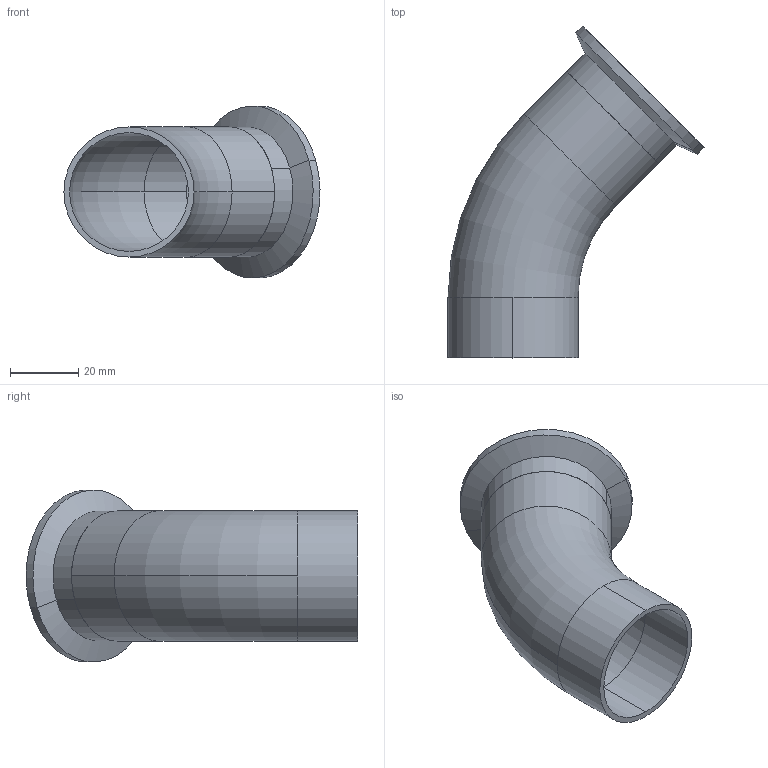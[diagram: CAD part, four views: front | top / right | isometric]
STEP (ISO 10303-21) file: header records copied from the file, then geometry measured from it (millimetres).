
FILE_DESCRIPTION (( 'STEP AP203' ), '1' );
FILE_NAME ('E2KC1.5.STEP', '2018-04-30T15:44:31', ( 'vneprd' ), ( 'Microsoft' ), 'SwSTEP 2.0', 'SolidWorks 2014', '' );
FILE_SCHEMA (( 'CONFIG_CONTROL_DESIGN' ));
Length unit declared in the file: inch
Products named in the file (1): E2KC1.5
Bounding box: 75.03 x 97.25 x 50.37 mm (x, y, z)
Volume: 20404.1 mm3; surface area: 23822.3 mm2
Topology: 2 solids, 2 shells, 35 faces, 74 edges, 44 vertices
Faces by surface type: cylinder 14, torus 10, cone 6, plane 5
Entity records: 1039 total; most frequent: DIRECTION 200, CARTESIAN_POINT 154, ORIENTED_EDGE 148, AXIS2_PLACEMENT_3D 90, EDGE_CURVE 74, CIRCLE 54, VERTEX_POINT 44, EDGE_LOOP 40
